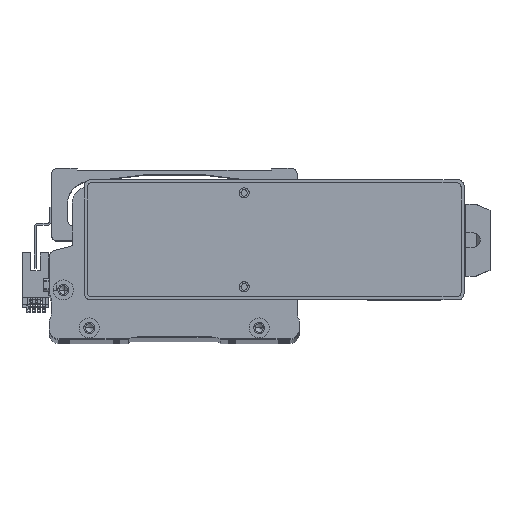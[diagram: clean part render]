
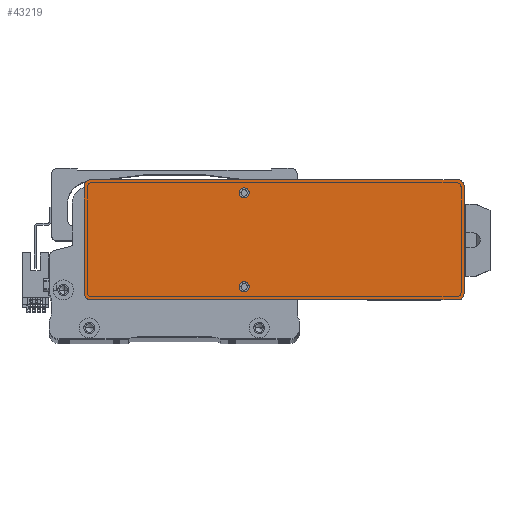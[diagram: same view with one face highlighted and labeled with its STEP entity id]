
A CAD part, top view. The second image highlights one B-rep face of the part: STEP entity #43219.
In plain terms, the highlighted planar face has unit normal (0, 0, 1) as drawn and (0, 0, -1) by its records, which use the part's own axes.
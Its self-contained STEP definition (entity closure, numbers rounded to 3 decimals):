
#261 = DIRECTION ( 'NONE',  ( 0., 0., -1. ) ) ;
#494 = DIRECTION ( 'NONE',  ( 0., 1., 0. ) ) ;
#690 = CARTESIAN_POINT ( 'NONE',  ( 95., 27., 0. ) ) ;
#1141 = CARTESIAN_POINT ( 'NONE',  ( 95., -27., 0. ) ) ;
#1191 = ORIENTED_EDGE ( 'NONE', *, *, #39409, .F. ) ;
#1620 = EDGE_CURVE ( 'NONE', #13012, #77154, #49729, .T. ) ;
#1865 = CARTESIAN_POINT ( 'NONE',  ( -95., -27., 0. ) ) ;
#2795 = ORIENTED_EDGE ( 'NONE', *, *, #22985, .F. ) ;
#3106 = CIRCLE ( 'NONE', #15471, 3. ) ;
#3950 = CARTESIAN_POINT ( 'NONE',  ( -15., 23.5, 0. ) ) ;
#4012 = CARTESIAN_POINT ( 'NONE',  ( -12.5, 23.5, 0. ) ) ;
#4378 = DIRECTION ( 'NONE',  ( -1., 0., 0. ) ) ;
#4997 = DIRECTION ( 'NONE',  ( 1., 0., 0. ) ) ;
#5322 = DIRECTION ( 'NONE',  ( 0., -1., 0. ) ) ;
#6296 = ORIENTED_EDGE ( 'NONE', *, *, #18729, .F. ) ;
#7318 = CIRCLE ( 'NONE', #73174, 2.5 ) ;
#7955 = FACE_OUTER_BOUND ( 'NONE', #49941, .T. ) ;
#8645 = DIRECTION ( 'NONE',  ( 1., 0., 0. ) ) ;
#8677 = VERTEX_POINT ( 'NONE', #44642 ) ;
#8883 = EDGE_CURVE ( 'NONE', #39415, #29440, #45899, .T. ) ;
#9116 = AXIS2_PLACEMENT_3D ( 'NONE', #38254, #261, #44675 ) ;
#9282 = CARTESIAN_POINT ( 'NONE',  ( -17.5, -23.5, 0. ) ) ;
#9754 = AXIS2_PLACEMENT_3D ( 'NONE', #13167, #57563, #19484 ) ;
#10305 = DIRECTION ( 'NONE',  ( -1., 0., 0. ) ) ;
#10329 = CIRCLE ( 'NONE', #78951, 2.5 ) ;
#10784 = EDGE_CURVE ( 'NONE', #39260, #29440, #58543, .T. ) ;
#13012 = VERTEX_POINT ( 'NONE', #75868 ) ;
#13167 = CARTESIAN_POINT ( 'NONE',  ( -15., 23.5, 0. ) ) ;
#13359 = EDGE_CURVE ( 'NONE', #39415, #68285, #25852, .T. ) ;
#13913 = CARTESIAN_POINT ( 'NONE',  ( -92., 27., 0. ) ) ;
#14205 = EDGE_CURVE ( 'NONE', #8677, #77154, #39522, .T. ) ;
#15301 = DIRECTION ( 'NONE',  ( 0., 0., -1. ) ) ;
#15471 = AXIS2_PLACEMENT_3D ( 'NONE', #13913, #58334, #20267 ) ;
#15988 = CARTESIAN_POINT ( 'NONE',  ( -12.5, -23.5, 0. ) ) ;
#16897 = CARTESIAN_POINT ( 'NONE',  ( -15., -23.5, 0. ) ) ;
#17840 = CIRCLE ( 'NONE', #27574, 2.5 ) ;
#18444 = VERTEX_POINT ( 'NONE', #60386 ) ;
#18729 = EDGE_CURVE ( 'NONE', #18444, #65072, #66421, .T. ) ;
#18964 = ORIENTED_EDGE ( 'NONE', *, *, #21078, .F. ) ;
#19484 = DIRECTION ( 'NONE',  ( -1., 0., 0. ) ) ;
#20267 = DIRECTION ( 'NONE',  ( 1., 0., 0. ) ) ;
#20946 = EDGE_CURVE ( 'NONE', #51276, #40314, #10329, .T. ) ;
#21078 = EDGE_CURVE ( 'NONE', #40314, #51276, #7318, .T. ) ;
#22063 = PLANE ( 'NONE',  #34743 ) ;
#22985 = EDGE_CURVE ( 'NONE', #65072, #18444, #17840, .T. ) ;
#23295 = DIRECTION ( 'NONE',  ( -1., 0., 0. ) ) ;
#25852 = LINE ( 'NONE', #42278, #74519 ) ;
#27574 = AXIS2_PLACEMENT_3D ( 'NONE', #3950, #48296, #10305 ) ;
#28442 = CARTESIAN_POINT ( 'NONE',  ( 0., 0., 0. ) ) ;
#28744 = CARTESIAN_POINT ( 'NONE',  ( 92., 27., 0. ) ) ;
#29440 = VERTEX_POINT ( 'NONE', #690 ) ;
#30104 = ORIENTED_EDGE ( 'NONE', *, *, #47129, .T. ) ;
#32802 = VECTOR ( 'NONE', #5322, 1000. ) ;
#33477 = VERTEX_POINT ( 'NONE', #76700 ) ;
#33853 = CARTESIAN_POINT ( 'NONE',  ( 92., 30., 0. ) ) ;
#34743 = AXIS2_PLACEMENT_3D ( 'NONE', #28442, #79180, #41182 ) ;
#35134 = DIRECTION ( 'NONE',  ( 1., 0., 0. ) ) ;
#36211 = EDGE_LOOP ( 'NONE', ( #18964, #59177 ) ) ;
#38254 = CARTESIAN_POINT ( 'NONE',  ( -92., -27., 0. ) ) ;
#38457 = CARTESIAN_POINT ( 'NONE',  ( 95., -30., 0. ) ) ;
#39260 = VERTEX_POINT ( 'NONE', #1141 ) ;
#39409 = EDGE_CURVE ( 'NONE', #8677, #33477, #49071, .T. ) ;
#39415 = VERTEX_POINT ( 'NONE', #33853 ) ;
#39522 = CIRCLE ( 'NONE', #9116, 3. ) ;
#40222 = ORIENTED_EDGE ( 'NONE', *, *, #50882, .T. ) ;
#40314 = VERTEX_POINT ( 'NONE', #9282 ) ;
#40681 = AXIS2_PLACEMENT_3D ( 'NONE', #80894, #42937, #4997 ) ;
#41182 = DIRECTION ( 'NONE',  ( 1., 0., 0. ) ) ;
#41558 = VECTOR ( 'NONE', #494, 1000. ) ;
#41653 = FACE_BOUND ( 'NONE', #57497, .T. ) ;
#42278 = CARTESIAN_POINT ( 'NONE',  ( 95., 30., 0. ) ) ;
#42447 = ORIENTED_EDGE ( 'NONE', *, *, #1620, .F. ) ;
#42937 = DIRECTION ( 'NONE',  ( 0., 0., -1. ) ) ;
#43219 = ADVANCED_FACE ( 'NONE', ( #41653, #7955, #56663 ), #22063, .F. ) ;
#44642 = CARTESIAN_POINT ( 'NONE',  ( -92., -30., 0. ) ) ;
#44675 = DIRECTION ( 'NONE',  ( 1., 0., 0. ) ) ;
#45899 = CIRCLE ( 'NONE', #54498, 3. ) ;
#47097 = VECTOR ( 'NONE', #8645, 1000. ) ;
#47129 = EDGE_CURVE ( 'NONE', #13012, #68285, #3106, .T. ) ;
#48296 = DIRECTION ( 'NONE',  ( 0., 0., -1. ) ) ;
#48885 = CIRCLE ( 'NONE', #40681, 3. ) ;
#49071 = LINE ( 'NONE', #53083, #47097 ) ;
#49729 = LINE ( 'NONE', #74313, #32802 ) ;
#49941 = EDGE_LOOP ( 'NONE', ( #52764, #40222, #1191, #72048, #42447, #30104, #76936, #81586 ) ) ;
#50882 = EDGE_CURVE ( 'NONE', #39260, #33477, #48885, .T. ) ;
#51276 = VERTEX_POINT ( 'NONE', #15988 ) ;
#52764 = ORIENTED_EDGE ( 'NONE', *, *, #10784, .F. ) ;
#53083 = CARTESIAN_POINT ( 'NONE',  ( 95., -30., 0. ) ) ;
#53357 = CARTESIAN_POINT ( 'NONE',  ( -15., -23.5, 0. ) ) ;
#54498 = AXIS2_PLACEMENT_3D ( 'NONE', #28744, #73159, #35134 ) ;
#56663 = FACE_BOUND ( 'NONE', #36211, .T. ) ;
#57497 = EDGE_LOOP ( 'NONE', ( #6296, #2795 ) ) ;
#57563 = DIRECTION ( 'NONE',  ( 0., 0., -1. ) ) ;
#58334 = DIRECTION ( 'NONE',  ( 0., 0., -1. ) ) ;
#58543 = LINE ( 'NONE', #38457, #41558 ) ;
#59177 = ORIENTED_EDGE ( 'NONE', *, *, #20946, .F. ) ;
#59748 = DIRECTION ( 'NONE',  ( -1., 0., 0. ) ) ;
#60386 = CARTESIAN_POINT ( 'NONE',  ( -17.5, 23.5, 0. ) ) ;
#61380 = DIRECTION ( 'NONE',  ( 0., 0., -1. ) ) ;
#61645 = CARTESIAN_POINT ( 'NONE',  ( -92., 30., 0. ) ) ;
#65072 = VERTEX_POINT ( 'NONE', #4012 ) ;
#66421 = CIRCLE ( 'NONE', #9754, 2.5 ) ;
#68285 = VERTEX_POINT ( 'NONE', #61645 ) ;
#72048 = ORIENTED_EDGE ( 'NONE', *, *, #14205, .T. ) ;
#73159 = DIRECTION ( 'NONE',  ( 0., 0., -1. ) ) ;
#73174 = AXIS2_PLACEMENT_3D ( 'NONE', #16897, #61380, #23295 ) ;
#74313 = CARTESIAN_POINT ( 'NONE',  ( -95., -30., 0. ) ) ;
#74519 = VECTOR ( 'NONE', #4378, 1000. ) ;
#75868 = CARTESIAN_POINT ( 'NONE',  ( -95., 27., 0. ) ) ;
#76700 = CARTESIAN_POINT ( 'NONE',  ( 92., -30., 0. ) ) ;
#76936 = ORIENTED_EDGE ( 'NONE', *, *, #13359, .F. ) ;
#77154 = VERTEX_POINT ( 'NONE', #1865 ) ;
#78951 = AXIS2_PLACEMENT_3D ( 'NONE', #53357, #15301, #59748 ) ;
#79180 = DIRECTION ( 'NONE',  ( 0., 0., 1. ) ) ;
#80894 = CARTESIAN_POINT ( 'NONE',  ( 92., -27., 0. ) ) ;
#81586 = ORIENTED_EDGE ( 'NONE', *, *, #8883, .T. ) ;
